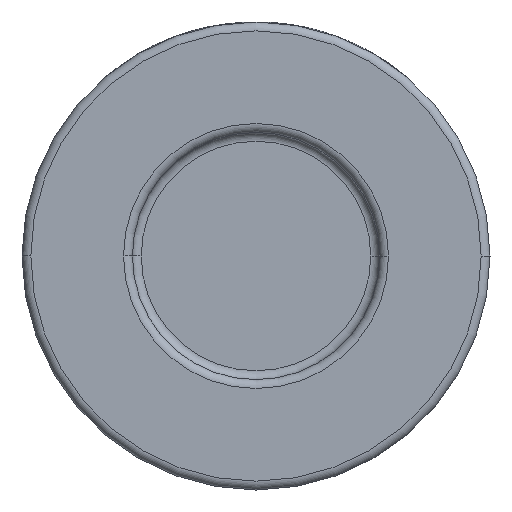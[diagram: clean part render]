
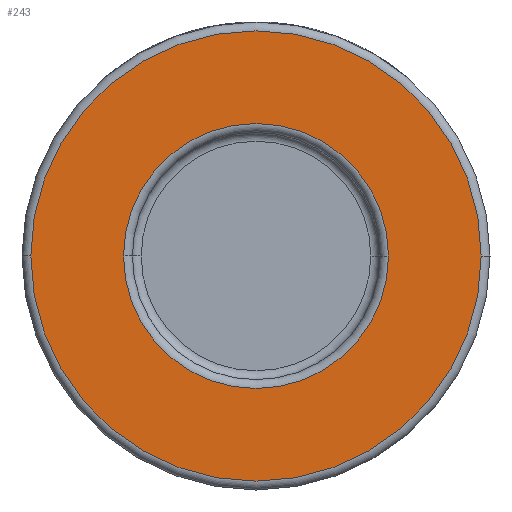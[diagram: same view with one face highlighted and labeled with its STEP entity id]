
A CAD part, front view. The second image highlights one B-rep face of the part: STEP entity #243.
In plain terms, the highlighted planar face has unit normal (0, -1, 0).
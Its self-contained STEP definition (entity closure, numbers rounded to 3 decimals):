
#12 = AXIS2_PLACEMENT_3D ( 'NONE', #3172, #4179, #1062 ) ;
#48 = DIRECTION ( 'NONE',  ( 1., 0., 0. ) ) ;
#51 = FACE_OUTER_BOUND ( 'NONE', #3673, .T. ) ;
#64 = DIRECTION ( 'NONE',  ( 1., 0., 0. ) ) ;
#87 = CIRCLE ( 'NONE', #12, 25.5 ) ;
#243 = ADVANCED_FACE ( 'NONE', ( #3200, #51 ), #2643, .T. ) ;
#343 = DIRECTION ( 'NONE',  ( 0., 1., 0. ) ) ;
#348 = VERTEX_POINT ( 'NONE', #4409 ) ;
#365 = CARTESIAN_POINT ( 'NONE',  ( 25.5, -20., 0. ) ) ;
#416 = VERTEX_POINT ( 'NONE', #365 ) ;
#646 = CARTESIAN_POINT ( 'NONE',  ( 0., -20., 0. ) ) ;
#736 = AXIS2_PLACEMENT_3D ( 'NONE', #1463, #343, #64 ) ;
#949 = ORIENTED_EDGE ( 'NONE', *, *, #1695, .T. ) ;
#962 = CIRCLE ( 'NONE', #2570, 25.5 ) ;
#1062 = DIRECTION ( 'NONE',  ( 1., 0., 0. ) ) ;
#1068 = EDGE_CURVE ( 'NONE', #348, #1826, #3208, .T. ) ;
#1166 = VERTEX_POINT ( 'NONE', #1177 ) ;
#1177 = CARTESIAN_POINT ( 'NONE',  ( -25.5, -20., 0. ) ) ;
#1187 = DIRECTION ( 'NONE',  ( 0., -1., 0. ) ) ;
#1461 = ORIENTED_EDGE ( 'NONE', *, *, #4394, .T. ) ;
#1463 = CARTESIAN_POINT ( 'NONE',  ( 0., -20., 0. ) ) ;
#1579 = ORIENTED_EDGE ( 'NONE', *, *, #3664, .T. ) ;
#1695 = EDGE_CURVE ( 'NONE', #1826, #348, #4326, .T. ) ;
#1826 = VERTEX_POINT ( 'NONE', #4377 ) ;
#1909 = CARTESIAN_POINT ( 'NONE',  ( 26.5, -20., 0. ) ) ;
#2570 = AXIS2_PLACEMENT_3D ( 'NONE', #3228, #1187, #3892 ) ;
#2643 = PLANE ( 'NONE',  #3195 ) ;
#3172 = CARTESIAN_POINT ( 'NONE',  ( 0., -20., 0. ) ) ;
#3195 = AXIS2_PLACEMENT_3D ( 'NONE', #1909, #3312, #4041 ) ;
#3199 = DIRECTION ( 'NONE',  ( 0., 1., 0. ) ) ;
#3200 = FACE_BOUND ( 'NONE', #3781, .T. ) ;
#3208 = CIRCLE ( 'NONE', #3792, 15. ) ;
#3228 = CARTESIAN_POINT ( 'NONE',  ( 0., -20., 0. ) ) ;
#3312 = DIRECTION ( 'NONE',  ( 0., -1., 0. ) ) ;
#3664 = EDGE_CURVE ( 'NONE', #1166, #416, #87, .T. ) ;
#3673 = EDGE_LOOP ( 'NONE', ( #1461, #1579 ) ) ;
#3781 = EDGE_LOOP ( 'NONE', ( #949, #4035 ) ) ;
#3792 = AXIS2_PLACEMENT_3D ( 'NONE', #646, #3199, #48 ) ;
#3892 = DIRECTION ( 'NONE',  ( 1., 0., 0. ) ) ;
#4035 = ORIENTED_EDGE ( 'NONE', *, *, #1068, .T. ) ;
#4041 = DIRECTION ( 'NONE',  ( 1., 0., 0. ) ) ;
#4179 = DIRECTION ( 'NONE',  ( 0., -1., 0. ) ) ;
#4326 = CIRCLE ( 'NONE', #736, 15. ) ;
#4377 = CARTESIAN_POINT ( 'NONE',  ( 15., -20., 0. ) ) ;
#4394 = EDGE_CURVE ( 'NONE', #416, #1166, #962, .T. ) ;
#4409 = CARTESIAN_POINT ( 'NONE',  ( -15., -20., 0. ) ) ;
